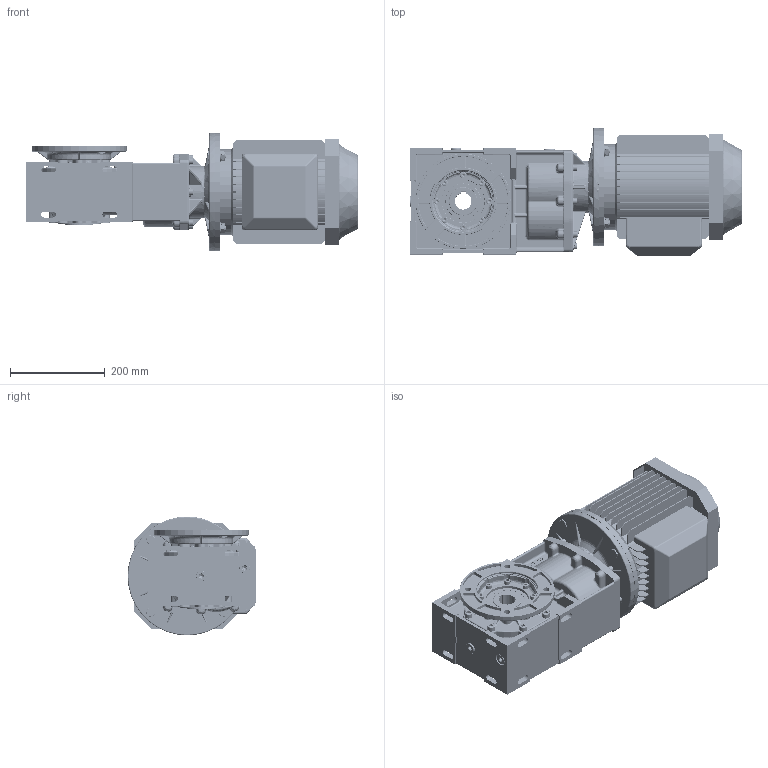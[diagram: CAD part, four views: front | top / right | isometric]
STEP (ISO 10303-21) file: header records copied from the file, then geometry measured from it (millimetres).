
FILE_DESCRIPTION((''),'2;1');
FILE_NAME('S:\Ghirri\3D\MO_RO30\Assiemi\MO30_2sFU-B5_112.stp','2006-02-01T17:01:42',('Stefano'),(''),'Autodesk Inventor 10','Autodesk Inventor 10','');
FILE_SCHEMA(('AUTOMOTIVE_DESIGN { 1 0 10303 214 1 1 1 1 }'));
Length unit declared in the file: millimetre
Products named in the file (21): MO30_2sFU-B5_112; Primario_MO30_2S; 3903001-A0; 3903002-A0; 3903003-A0; 3903009-A0; DIN 3760 AS AS - 60 x 75 x 8 - NBR; Guarnizione 3_8 GAS; Tappo 3_8 GAS_esagn_incsst; UNI 5931  M 10 x  25; UNI 5931  M 8 x  25; UNI 8839 A 8; FM-90-110-D=250; UNI 5739  M12 x 30; UNI 5589  M12; UNI 6593 14 x 24; motori B5 112; FU_MV75; UNI 5931  M 8 x  20
Assembly tree (66 placements, depth 3):
  MO30_2sFU-B5_112
    Primario_MO30_2S
      3903001-A0
      3903002-A0
      3903003-A0
      3903009-A0
      DIN 3760 AS AS - 60 x 75 x 8 - NBR  x2
      Guarnizione 3_8 GAS  x5
      Tappo 3_8 GAS_esagn_incsst  x5
      UNI 5931  M 10 x  25  x8
      UNI 5931  M 8 x  25  x8
      UNI 8839 A 8  x8
    FM-90-110-D=250
      FM-90-110-D=250
      UNI 5739  M12 x 30  x4
      UNI 5589  M12  x4
      UNI 6593 14 x 24  x4
    motori B5 112
    FU_MV75
      FU_MV75
      UNI 5931  M 8 x  20  x8
Bounding box: 699 x 271 x 250 mm (x, y, z)
Volume: 18394637.2 mm3; surface area: 1622164.2 mm2
Topology: 63 solids, 67 shells, 4439 faces, 11102 edges, 6837 vertices
Faces by surface type: plane 1588, cylinder 1246, bspline 1200, cone 256, torus 145, sphere 4
Full cylindrical faces by diameter (mm): 8 x18, 8.5 x8, 10 x8, 10.5 x8, 12 x4, 13 x20, 14 x4, 14.5 x4, 14.95 x1, 16 x8, 16.3 x5, 16.5 x5, 16.63 x4, 22 x10, 24 x4, 25 x1, 28 x1, 60 x2, 64.8 x2, 70 x1, 71 x2, 75 x4, 80 x2, 90 x3, 110 x2, 114.4 x1, 126 x1, 130 x1, 154.4 x1, 160 x3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
Entity records: 197088 total; most frequent: CARTESIAN_POINT 108561, ORIENTED_EDGE 18778, DIRECTION 17756, EDGE_CURVE 9389, AXIS2_PLACEMENT_3D 6789, VERTEX_POINT 5929, EDGE_LOOP 4320, VECTOR 4178
